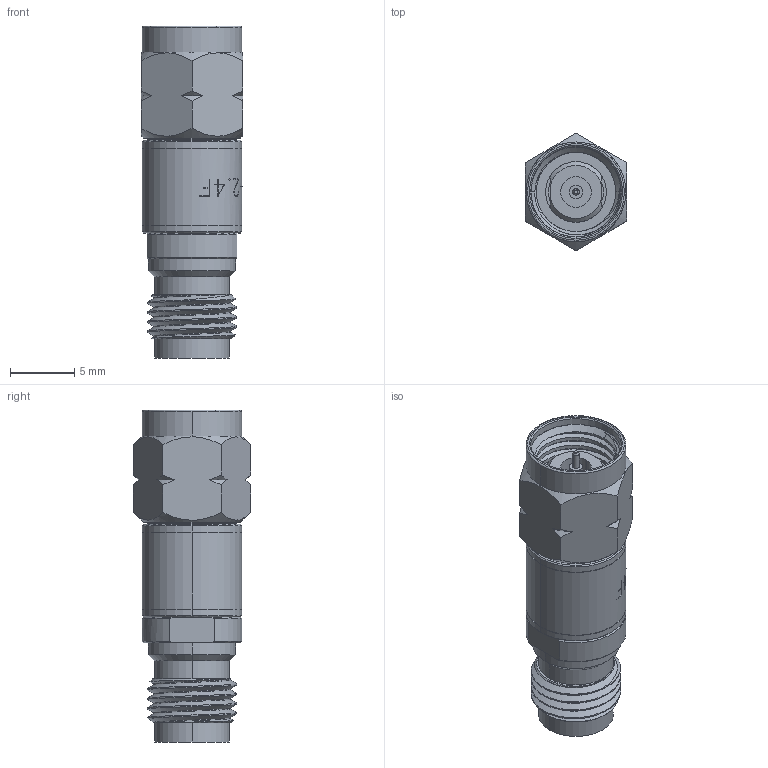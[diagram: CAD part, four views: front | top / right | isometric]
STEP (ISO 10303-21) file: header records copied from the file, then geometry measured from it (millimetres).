
FILE_DESCRIPTION (( 'STEP AP203' ), '1' );
FILE_NAME ('8034000K001-803-Cst.STEP', '2020-10-29T20:54:45', ( '' ), ( '' ), 'SwSTEP 2.0', 'SolidWorks 2019', '' );
FILE_SCHEMA (( 'CONFIG_CONTROL_DESIGN' ));
Length unit declared in the file: inch
Products named in the file (1): 8034000K001-803-Cst
Bounding box: 7.92 x 9.15 x 25.93 mm (x, y, z)
Volume: 916.8 mm3; surface area: 1271.8 mm2
Topology: 1 solids, 1 shells, 313 faces, 811 edges, 532 vertices
Faces by surface type: plane 115, cylinder 89, bspline 62, cone 47
Entity records: 12398 total; most frequent: CARTESIAN_POINT 5075, ORIENTED_EDGE 1622, DIRECTION 1351, EDGE_CURVE 811, VERTEX_POINT 532, AXIS2_PLACEMENT_3D 510, EDGE_LOOP 349, LINE 331
